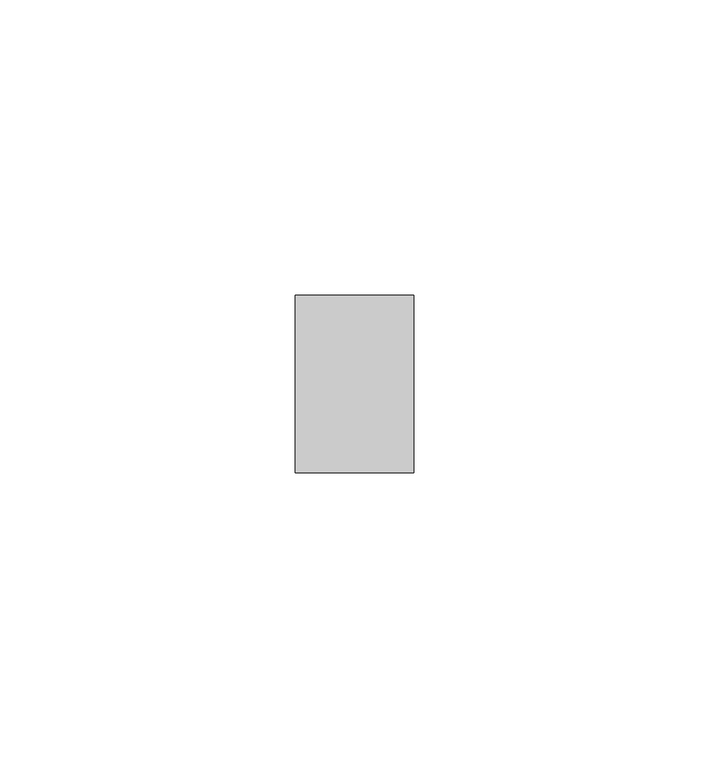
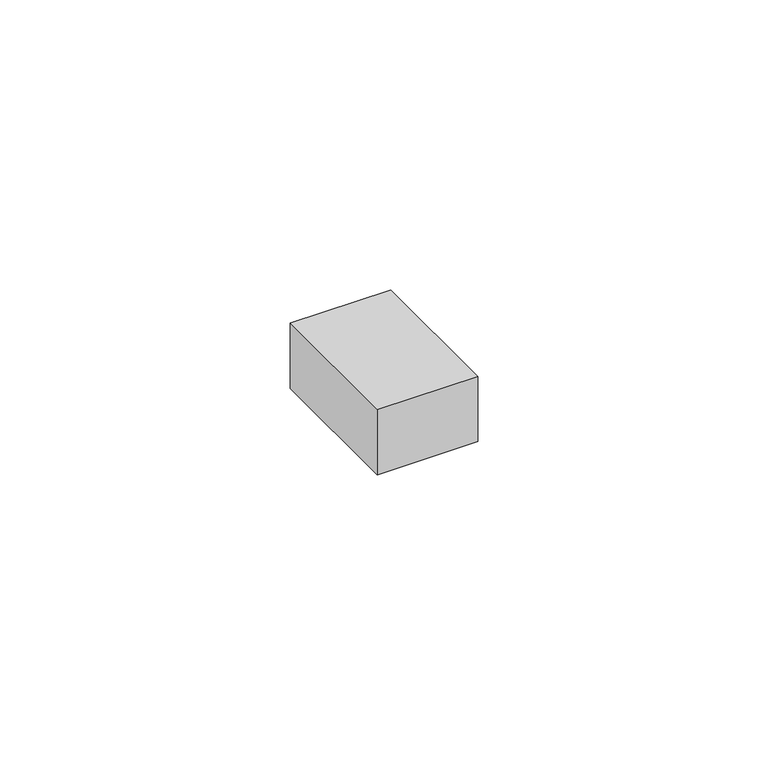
"""IFC4 building model written with IfcOpenShell, lengths in millimetres: member geometry, Прямоугольный импост : Квадрат 10 мм - Зазор между навесными плитами."""

import ifcopenshell
import ifcopenshell.guid

model = None  # the IFC model being written
_history = None  # IfcOwnerHistory: only IFC2X3 demands one
_inside = {}  # id of a spatial element -> (the spatial element, [elements in it])
_under = {}  # id of a project, library or spatial element -> (it, [spatial elements below it])
_declared = {}  # id of a project -> (the project, [libraries it declares])
_typed = {}  # id of a type object -> (the type object, [elements of that type])
_made_of = {}  # id of a material, layer set ... -> (it, [elements and type objects made of it])


def new_model(schema):
    """Start an empty IFC model of exactly this schema.

    Asked for "IFC4X3", IfcOpenShell would pick the latest addendum, in which some entities
    have other attributes; the version numbers below select the first issue.
    IFC2X3 requires an IfcOwnerHistory on every rooted entity: one is made here for all.
    """
    global model, _history
    if schema == "IFC4X3":
        model = ifcopenshell.file(schema_version=(4, 3, 0, 0))
    else:
        model = ifcopenshell.file(schema=schema)
    _inside.clear()
    _under.clear()
    _declared.clear()
    _typed.clear()
    _made_of.clear()
    _history = None
    if model.schema == "IFC2X3":
        org = make("IfcOrganization", Name="unknown")
        user = make(
            "IfcPersonAndOrganization",
            ThePerson=make("IfcPerson", FamilyName="unknown"),
            TheOrganization=org,
        )
        app = make(
            "IfcApplication",
            ApplicationDeveloper=org,
            Version="unknown",
            ApplicationFullName="unknown",
            ApplicationIdentifier="unknown",
        )
        _history = make(
            "IfcOwnerHistory",
            OwningUser=user,
            OwningApplication=app,
            ChangeAction="ADDED",
            CreationDate=0,
        )
    return model


def make(cls, **values):
    """One entity of the class cls with the attributes given. An attribute that is None is left unset."""
    return model.create_entity(
        cls, **{name: value for name, value in values.items() if value is not None}
    )


def rooted(cls, **values):
    """An entity with a GlobalId (a new one), such as an element, a storey or a relation."""
    return make(cls, GlobalId=ifcopenshell.guid.new(), OwnerHistory=_history, **values)


def si_unit(unit_type, name, prefix=None):
    """IfcSIUnit, for example si_unit("LENGTHUNIT", "METRE", prefix="MILLI")."""
    return make("IfcSIUnit", UnitType=unit_type, Prefix=prefix, Name=name)


def assignment(units):
    """IfcUnitAssignment: the units of a project."""
    return None if units is None else make("IfcUnitAssignment", Units=units)


def point(xyz):
    """IfcCartesianPoint."""
    return None if xyz is None else make("IfcCartesianPoint", Coordinates=xyz)


def direction(xyz):
    """IfcDirection."""
    return None if xyz is None else make("IfcDirection", DirectionRatios=xyz)


def frame(location, z_axis=None, x_axis=None):
    """IfcAxis2Placement3D, a coordinate frame: its origin and axes. An axis left out is left unset."""
    return make(
        "IfcAxis2Placement3D",
        Location=point(location),
        Axis=direction(z_axis),
        RefDirection=direction(x_axis),
    )


def origin():
    """The frame at (0, 0, 0) with its axes left unset."""
    return frame((0.0, 0.0, 0.0))


def place(relative_to, where):
    """IfcLocalPlacement: puts the frame where relative to a parent placement (None: the world)."""
    return make(
        "IfcLocalPlacement", PlacementRelTo=relative_to, RelativePlacement=where
    )


def context(
    kind, dimensions, precision=None, world=None, true_north=None, identifier=None
):
    """IfcGeometricRepresentationContext, for example the 3D "Model" context."""
    return make(
        "IfcGeometricRepresentationContext",
        ContextIdentifier=identifier,
        ContextType=kind,
        CoordinateSpaceDimension=dimensions,
        Precision=precision,
        WorldCoordinateSystem=world,
        TrueNorth=true_north,
    )


def project(units=None, contexts=None):
    """IfcProject with its units and contexts."""
    return rooted(
        "IfcProject",
        Name="project",
        RepresentationContexts=contexts,
        UnitsInContext=assignment(units),
    )


def spatial(cls, under=None, at=None, **own):
    """A site, building, storey or space (cls), placed at a placement, below another one or the project."""
    s = rooted(cls, ObjectPlacement=at, **own)
    if under is not None:
        _under.setdefault(under.id(), (under, []))[1].append(s)
    return s


def polyline(points):
    """IfcPolyline through the points."""
    return make("IfcPolyline", Points=[point(p) for p in points])


def outline(outer, holes=None, kind="AREA"):
    """IfcArbitraryClosedProfileDef: a profile drawn as a closed curve; with holes, ...WithVoids."""
    if holes is None:
        return make("IfcArbitraryClosedProfileDef", ProfileType=kind, OuterCurve=outer)
    return make(
        "IfcArbitraryProfileDefWithVoids",
        ProfileType=kind,
        OuterCurve=outer,
        InnerCurves=holes,
    )


def extrude(swept, where, along, depth):
    """IfcExtrudedAreaSolid: the profile swept, set in the frame where, extruded along a direction by depth."""
    return make(
        "IfcExtrudedAreaSolid",
        SweptArea=swept,
        Position=where,
        ExtrudedDirection=direction(along),
        Depth=depth,
    )


def shape(context_of_items, identifier, shape_type, items):
    """IfcShapeRepresentation: the items that make up one representation, for example the "Body"."""
    return make(
        "IfcShapeRepresentation",
        ContextOfItems=context_of_items,
        RepresentationIdentifier=identifier,
        RepresentationType=shape_type,
        Items=items,
    )


def source(mapping_origin, context_of_items, identifier, shape_type, items):
    """IfcRepresentationMap: a shape defined once, which mapped items show again and again."""
    return make(
        "IfcRepresentationMap",
        MappingOrigin=mapping_origin,
        MappedRepresentation=shape(context_of_items, identifier, shape_type, items),
    )


def transform(
    local_origin,
    x_axis=None,
    y_axis=None,
    z_axis=None,
    scale=None,
    scale2=None,
    scale3=None,
    uniform=True,
):
    """IfcCartesianTransformationOperator3D, or its non-uniform kind. x_axis, y_axis, z_axis: its Axis1, 2, 3."""
    if uniform:
        return make(
            "IfcCartesianTransformationOperator3D",
            Axis1=direction(x_axis),
            Axis2=direction(y_axis),
            LocalOrigin=point(local_origin),
            Scale=scale,
            Axis3=direction(z_axis),
        )
    return make(
        "IfcCartesianTransformationOperator3DnonUniform",
        Axis1=direction(x_axis),
        Axis2=direction(y_axis),
        LocalOrigin=point(local_origin),
        Scale=scale,
        Axis3=direction(z_axis),
        Scale2=scale2,
        Scale3=scale3,
    )


def mapped(mapping_source, mapping_target):
    """IfcMappedItem: shows the shape of a source again, moved by a transform."""
    return make(
        "IfcMappedItem", MappingSource=mapping_source, MappingTarget=mapping_target
    )


def made_of(thing, what):
    """Note that an element or type object is made of a material, layer set ...; save() writes the relation."""
    if what is not None:
        _made_of.setdefault(what.id(), (what, []))[1].append(thing)
    return thing


def element(
    cls,
    number,
    at=None,
    inside=None,
    cuts=None,
    type_object=None,
    material=None,
    context=None,
    identifier="Body",
    shape_type=None,
    held_by="IfcProductDefinitionShape",
    body=None,
    shapes=None,
    **own,
):
    """One element of the class cls, such as IfcWall. Its Tag is "e" and its number.

    at: its placement. inside: the storey or other place that contains it. cuts: it is an
    opening in that element (IfcRelVoidsElement). A single representation is given by context,
    identifier, shape_type and body (its items); several are given by shapes. held_by: the class
    of the entity that holds the representations. save() writes the other relations.
    """
    e = rooted(cls, Tag="e%d" % number, ObjectPlacement=at, **own)
    if body is not None:
        shapes = [shape(context, identifier, shape_type, body)]
    if shapes is not None:
        e.Representation = make(held_by, Representations=shapes)
    if inside is not None:
        _inside.setdefault(inside.id(), (inside, []))[1].append(e)
    if cuts is not None:
        rooted(
            "IfcRelVoidsElement", RelatingBuildingElement=cuts, RelatedOpeningElement=e
        )
    if type_object is not None:
        _typed.setdefault(type_object.id(), (type_object, []))[1].append(e)
    return made_of(e, material)


def aggregate(whole, parts):
    """IfcRelAggregates: a whole, such as a stair, and the parts it consists of."""
    return rooted("IfcRelAggregates", RelatingObject=whole, RelatedObjects=parts)


def save(model, path):
    """Write the relations noted so far, then the file.

    IfcRelAggregates (storeys below a building ...), IfcRelContainedInSpatialStructure (elements
    in a storey), IfcRelDefinesByType, IfcRelAssociatesMaterial and IfcRelDeclares: one each for
    every whole, place, type object, material and project.
    """
    for whole, parts in _under.values():
        aggregate(whole, parts)
    for where, things in _inside.values():
        rooted(
            "IfcRelContainedInSpatialStructure",
            RelatedElements=things,
            RelatingStructure=where,
        )
    for kind, things in _typed.values():
        rooted("IfcRelDefinesByType", RelatedObjects=things, RelatingType=kind)
    for what, things in _made_of.values():
        rooted("IfcRelAssociatesMaterial", RelatedObjects=things, RelatingMaterial=what)
    for by, libraries in _declared.values():
        rooted("IfcRelDeclares", RelatingContext=by, RelatedDefinitions=libraries)
    model.write(path)


def member_c705b7d1(model_context):
    return source(origin(), model_context, "Body", "SweptSolid", [
        extrude(outline(polyline([(10.0, 15.0), (10.0, -15.0), (-10.0, -15.0), (-10.0, 15.0), (10.0, 15.0)])), frame((0.0, 0.0, -13.6790865), z_axis=(0.0, 0.0, 1.0), x_axis=(1.0, 0.0, 0.0)), (0.0, 0.0, 1.0), 13.6790865),
    ])


if __name__ == "__main__":
    model = new_model("IFC4")
    model_context = context("Model", 3, world=origin())
    ifc_project = project(units=[si_unit("LENGTHUNIT", "METRE", prefix="MILLI")], contexts=[model_context])
    site = spatial("IfcSite", under=ifc_project)
    building = spatial("IfcBuilding", under=site)
    placement = place(None, origin())
    member_shape = member_c705b7d1(model_context)
    element("IfcMember", 1, ObjectType="Прямоугольный импост : Квадрат 10 мм - Зазор между навесными плитами", at=placement, inside=building, context=model_context, shape_type="MappedRepresentation", body=[
        mapped(member_shape, transform((0.0, 0.0, 0.0), x_axis=(1.0, 0.0, 0.0), y_axis=(0.0, 1.0, 0.0), z_axis=(0.0, 0.0, 1.0))),
    ])
    save(model, "model.ifc")
